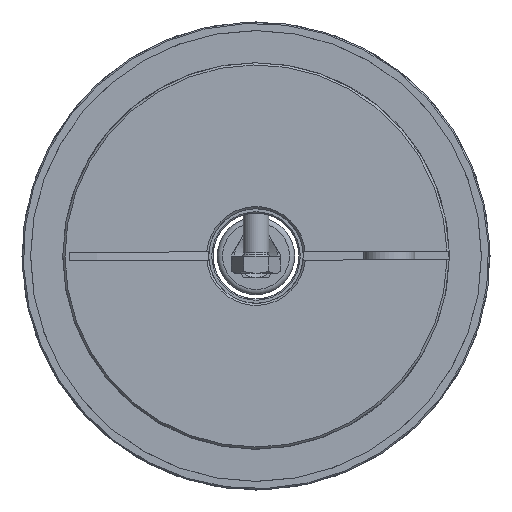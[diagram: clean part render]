
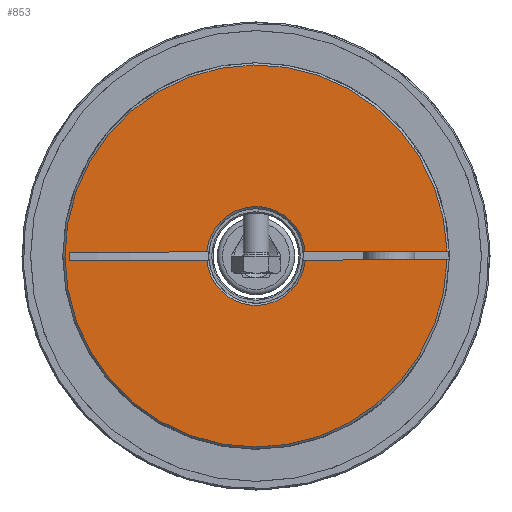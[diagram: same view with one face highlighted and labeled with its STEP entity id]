
A CAD part, left-side view. The second image highlights one B-rep face of the part: STEP entity #853.
In plain terms, the highlighted planar face has unit normal (-1, 0, 0).
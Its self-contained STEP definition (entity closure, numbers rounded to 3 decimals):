
#853 = ADVANCED_FACE( 'NONE', ( #1557 ), #1558, .F. );
#1557 = FACE_OUTER_BOUND( '', #2148, .T. );
#1558 = PLANE( '', #2149 );
#2148 = EDGE_LOOP( '', ( #3248, #3249, #3250, #3251, #3252, #3253, #3254, #3255 ) );
#2149 = AXIS2_PLACEMENT_3D( '', #3256, #3257, #3258 );
#3248 = ORIENTED_EDGE( '', *, *, #3833, .T. );
#3249 = ORIENTED_EDGE( '', *, *, #3834, .T. );
#3250 = ORIENTED_EDGE( '', *, *, #3835, .T. );
#3251 = ORIENTED_EDGE( '', *, *, #3804, .T. );
#3252 = ORIENTED_EDGE( '', *, *, #3829, .F. );
#3253 = ORIENTED_EDGE( '', *, *, #3836, .T. );
#3254 = ORIENTED_EDGE( '', *, *, #3837, .F. );
#3255 = ORIENTED_EDGE( '', *, *, #3838, .T. );
#3256 = CARTESIAN_POINT( '', ( 0., 11., 0. ) );
#3257 = DIRECTION( '', ( 1., 0., 0. ) );
#3258 = DIRECTION( '', ( 0., 1., 0. ) );
#3804 = EDGE_CURVE( 'NONE', #4387, #4388, #4389, .F. );
#3829 = EDGE_CURVE( 'NONE', #4433, #4388, #4435, .F. );
#3833 = EDGE_CURVE( 'NONE', #4441, #4442, #4443, .T. );
#3834 = EDGE_CURVE( 'NONE', #4442, #4444, #4445, .T. );
#3835 = EDGE_CURVE( 'NONE', #4444, #4387, #4446, .T. );
#3836 = EDGE_CURVE( 'NONE', #4433, #4447, #4448, .T. );
#3837 = EDGE_CURVE( 'NONE', #4449, #4447, #4450, .F. );
#3838 = EDGE_CURVE( 'NONE', #4449, #4441, #4451, .T. );
#4387 = VERTEX_POINT( 'NONE', #5363 );
#4388 = VERTEX_POINT( 'NONE', #5364 );
#4389 = CIRCLE( '', #5365, 44.5 );
#4433 = VERTEX_POINT( 'NONE', #5524 );
#4435 = LINE( '', #5529, #5530 );
#4441 = VERTEX_POINT( 'NONE', #5538 );
#4442 = VERTEX_POINT( 'NONE', #5539 );
#4443 = LINE( '', #5540, #5541 );
#4444 = VERTEX_POINT( 'NONE', #5542 );
#4445 = CIRCLE( '', #5543, 11.5 );
#4446 = LINE( '', #5544, #5545 );
#4447 = VERTEX_POINT( 'NONE', #5546 );
#4448 = CIRCLE( '', #5547, 11.5 );
#4449 = VERTEX_POINT( 'NONE', #5548 );
#4450 = LINE( '', #5549, #5550 );
#4451 = LINE( '', #5551, #5552 );
#5363 = CARTESIAN_POINT( '', ( 0., -44.489, 1. ) );
#5364 = CARTESIAN_POINT( '', ( 0., -44.489, -1. ) );
#5365 = AXIS2_PLACEMENT_3D( '', #6215, #6216, #6217 );
#5524 = CARTESIAN_POINT( '', ( 0., -11.456, -1. ) );
#5529 = CARTESIAN_POINT( '', ( 0., -9., -1. ) );
#5530 = VECTOR( '', #6261, 1000. );
#5538 = CARTESIAN_POINT( '', ( 0., 43.508, 1. ) );
#5539 = CARTESIAN_POINT( '', ( 0., 11.456, 1. ) );
#5540 = CARTESIAN_POINT( '', ( 0., 11., 1. ) );
#5541 = VECTOR( '', #6267, 1000. );
#5542 = CARTESIAN_POINT( '', ( 0., -11.456, 1. ) );
#5543 = AXIS2_PLACEMENT_3D( '', #6268, #6269, #6270 );
#5544 = CARTESIAN_POINT( '', ( 0., 11., 1. ) );
#5545 = VECTOR( '', #6271, 1000. );
#5546 = CARTESIAN_POINT( '', ( 0., 11.456, -1. ) );
#5547 = AXIS2_PLACEMENT_3D( '', #6272, #6273, #6274 );
#5548 = CARTESIAN_POINT( '', ( 0., 43.508, -1. ) );
#5549 = CARTESIAN_POINT( '', ( 0., -9., -1. ) );
#5550 = VECTOR( '', #6275, 1000. );
#5551 = CARTESIAN_POINT( '', ( 0., 43.508, -1. ) );
#5552 = VECTOR( '', #6276, 1000. );
#6215 = CARTESIAN_POINT( '', ( 0., 0., 0. ) );
#6216 = DIRECTION( '', ( 1., 0., 0. ) );
#6217 = DIRECTION( '', ( 0., 0., -1. ) );
#6261 = DIRECTION( '', ( 0., 1., 0. ) );
#6267 = DIRECTION( '', ( 0., -1., 0. ) );
#6268 = CARTESIAN_POINT( '', ( 0., 0., 0. ) );
#6269 = DIRECTION( '', ( 1., 0., 0. ) );
#6270 = DIRECTION( '', ( 0., 0., -1. ) );
#6271 = DIRECTION( '', ( 0., -1., 0. ) );
#6272 = CARTESIAN_POINT( '', ( 0., 0., 0. ) );
#6273 = DIRECTION( '', ( 1., 0., 0. ) );
#6274 = DIRECTION( '', ( 0., 0., -1. ) );
#6275 = DIRECTION( '', ( 0., 1., 0. ) );
#6276 = DIRECTION( '', ( 0., 0., 1. ) );
